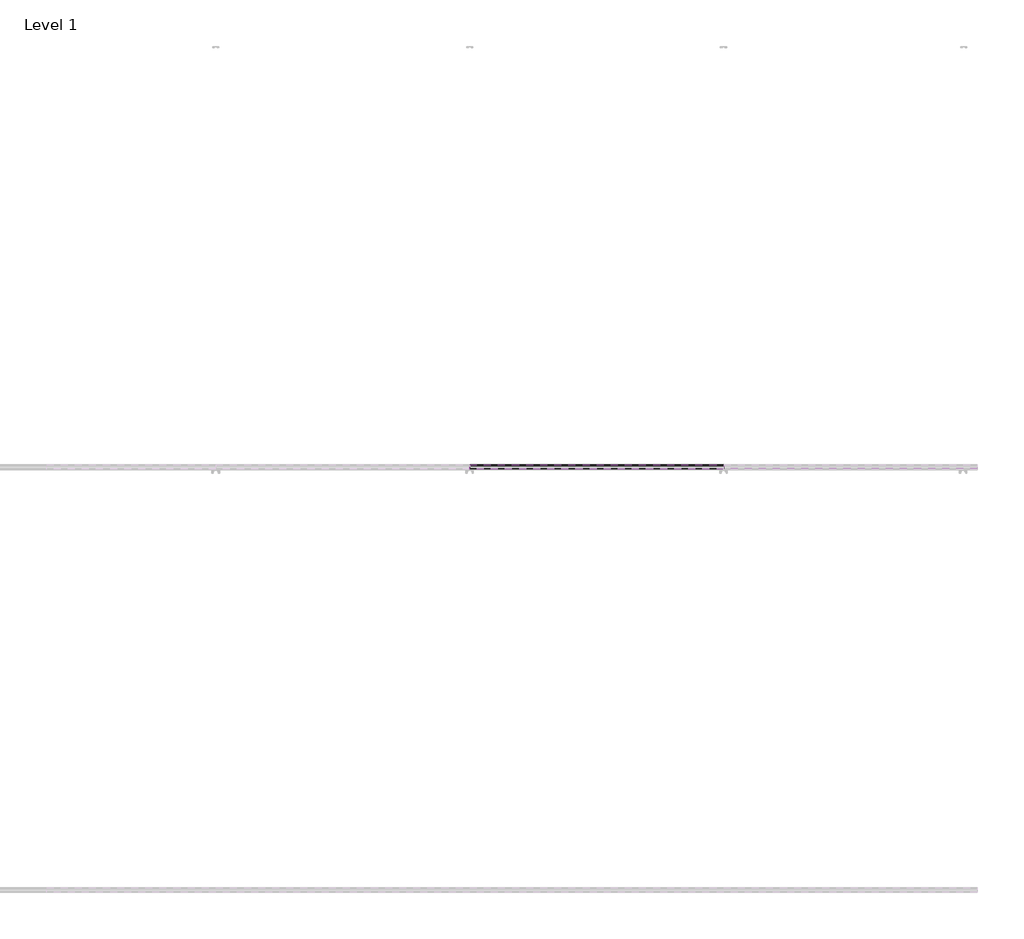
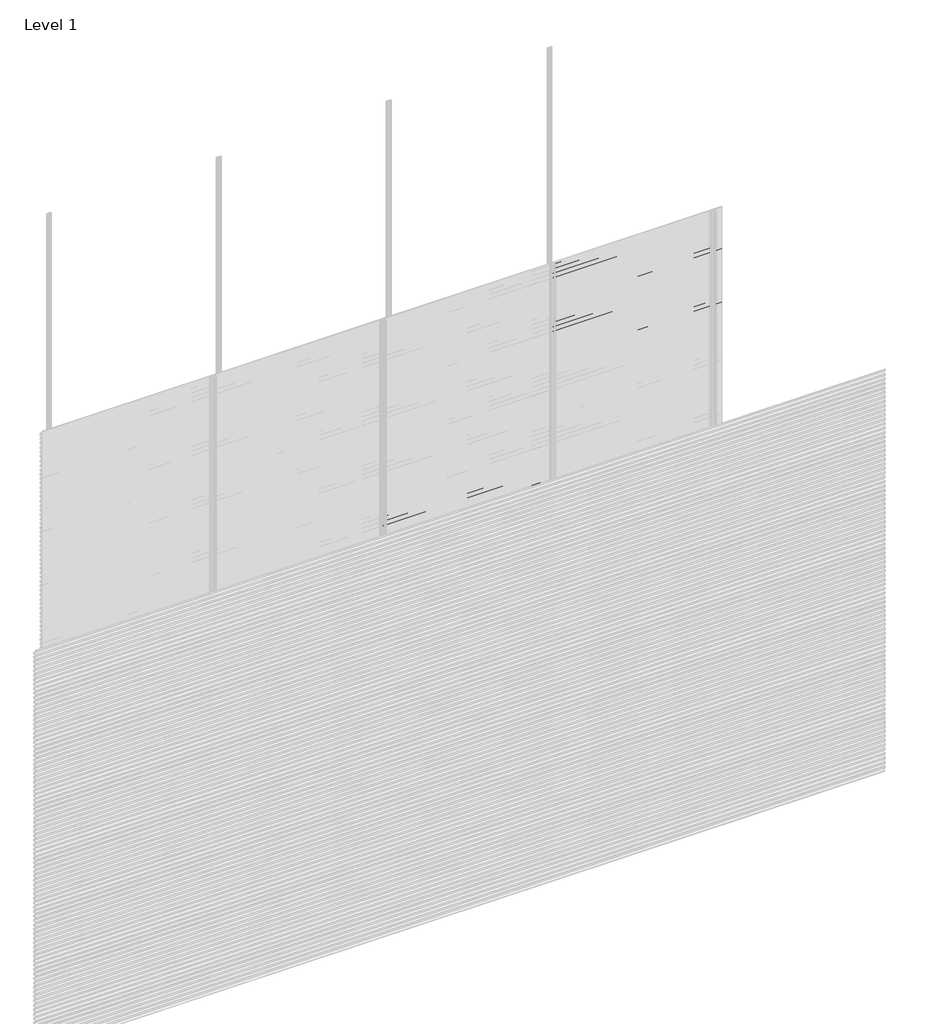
# One storey, part 69 of 77: 72 proxies.
"""IFC4 building model written with IfcOpenShell, lengths in millimetres."""

from ifc_helpers import new_model, si_unit, frame, origin, place, context, project, spatial, polyline, outline, extrude, element, save

model = new_model("IFC4")

# Units and contexts
model_context = context("Model", 3, world=origin())
ifc_project = project(units=[si_unit("LENGTHUNIT", "METRE", prefix="MILLI")], contexts=[model_context])

# Site, building, storey
site = spatial("IfcSite", under=ifc_project)
building = spatial("IfcBuilding", under=site)
storey = spatial("IfcBuildingStorey", under=building, Name="Level 1", Elevation=0.0)

# Proxies
placement = place(None, origin())
element("IfcBuildingElementProxy", 1, Name="Wall Sweeps", at=placement, inside=storey, context=model_context, shape_type="SweptSolid", body=[
    extrude(outline(polyline([(-5978.6, 1607.2359887), (-5998.0, 1618.4366691), (-5998.0, 1631.7), (-5997.0, 1631.7), (-5997.0, 1619.0191057), (-5977.6, 1607.8185105), (-5977.6, 1594.2185105), (-5978.6, 1595.7953129), (-5978.6, 1601.6032062), (-5995.9773817, 1593.5), (-5996.4, 1594.4063078), (-5978.6, 1602.7065841), (-5978.6, 1607.2359887)])), frame((3600.0, 0.0, 0.0), z_axis=(1.0, 0.0, 0.0), x_axis=(0.0, 1.0, 0.0)), (0.0, 0.0, 1.0), 1200.0),
])
element("IfcBuildingElementProxy", 2, Name="Wall Sweeps", at=placement, inside=storey, context=model_context, shape_type="SweptSolid", body=[
    extrude(outline(polyline([(-5978.6, 1573.9359887), (-5998.0, 1585.1366691), (-5998.0, 1598.4), (-5997.0, 1598.4), (-5997.0, 1585.7191057), (-5977.6, 1574.5185105), (-5977.6, 1560.9185105), (-5978.6, 1562.4953129), (-5978.6, 1568.3032062), (-5995.9773817, 1560.2), (-5996.4, 1561.1063078), (-5978.6, 1569.4065841), (-5978.6, 1573.9359887)])), frame((3600.0, 0.0, 0.0), z_axis=(1.0, 0.0, 0.0), x_axis=(0.0, 1.0, 0.0)), (0.0, 0.0, 1.0), 1200.0),
])
element("IfcBuildingElementProxy", 3, Name="Wall Sweeps", at=placement, inside=storey, context=model_context, shape_type="SweptSolid", body=[
    extrude(outline(polyline([(-5978.6, 1540.6359887), (-5998.0, 1551.8366691), (-5998.0, 1565.1), (-5997.0, 1565.1), (-5997.0, 1552.4191057), (-5977.6, 1541.2185105), (-5977.6, 1527.6185105), (-5978.6, 1529.1953129), (-5978.6, 1535.0032062), (-5995.9773817, 1526.9), (-5996.4, 1527.8063078), (-5978.6, 1536.1065841), (-5978.6, 1540.6359887)])), frame((3600.0, 0.0, 0.0), z_axis=(1.0, 0.0, 0.0), x_axis=(0.0, 1.0, 0.0)), (0.0, 0.0, 1.0), 1200.0),
])
element("IfcBuildingElementProxy", 4, Name="Wall Sweeps", at=placement, inside=storey, context=model_context, shape_type="SweptSolid", body=[
    extrude(outline(polyline([(-5978.6, 1507.3359887), (-5998.0, 1518.5366691), (-5998.0, 1531.8), (-5997.0, 1531.8), (-5997.0, 1519.1191057), (-5977.6, 1507.9185105), (-5977.6, 1494.3185105), (-5978.6, 1495.8953129), (-5978.6, 1501.7032062), (-5995.9773817, 1493.6), (-5996.4, 1494.5063078), (-5978.6, 1502.8065841), (-5978.6, 1507.3359887)])), frame((3600.0, 0.0, 0.0), z_axis=(1.0, 0.0, 0.0), x_axis=(0.0, 1.0, 0.0)), (0.0, 0.0, 1.0), 1200.0),
])
element("IfcBuildingElementProxy", 5, Name="Wall Sweeps", at=placement, inside=storey, context=model_context, shape_type="SweptSolid", body=[
    extrude(outline(polyline([(-5978.6, 1474.0359887), (-5998.0, 1485.2366691), (-5998.0, 1498.5), (-5997.0, 1498.5), (-5997.0, 1485.8191057), (-5977.6, 1474.6185105), (-5977.6, 1461.0185105), (-5978.6, 1462.5953129), (-5978.6, 1468.4032062), (-5995.9773817, 1460.3), (-5996.4, 1461.2063078), (-5978.6, 1469.5065841), (-5978.6, 1474.0359887)])), frame((3600.0, 0.0, 0.0), z_axis=(1.0, 0.0, 0.0), x_axis=(0.0, 1.0, 0.0)), (0.0, 0.0, 1.0), 1200.0),
])
element("IfcBuildingElementProxy", 6, Name="Wall Sweeps", at=placement, inside=storey, context=model_context, shape_type="SweptSolid", body=[
    extrude(outline(polyline([(-5978.6, 1440.7359887), (-5998.0, 1451.9366691), (-5998.0, 1465.2), (-5997.0, 1465.2), (-5997.0, 1452.5191057), (-5977.6, 1441.3185105), (-5977.6, 1427.7185105), (-5978.6, 1429.2953129), (-5978.6, 1435.1032062), (-5995.9773817, 1427.0), (-5996.4, 1427.9063078), (-5978.6, 1436.2065841), (-5978.6, 1440.7359887)])), frame((3600.0, 0.0, 0.0), z_axis=(1.0, 0.0, 0.0), x_axis=(0.0, 1.0, 0.0)), (0.0, 0.0, 1.0), 1200.0),
])
element("IfcBuildingElementProxy", 7, Name="Wall Sweeps", at=placement, inside=storey, context=model_context, shape_type="SweptSolid", body=[
    extrude(outline(polyline([(-5978.6, 1407.4359887), (-5998.0, 1418.6366691), (-5998.0, 1431.9), (-5997.0, 1431.9), (-5997.0, 1419.2191057), (-5977.6, 1408.0185105), (-5977.6, 1394.4185105), (-5978.6, 1395.9953129), (-5978.6, 1401.8032062), (-5995.9773817, 1393.7), (-5996.4, 1394.6063078), (-5978.6, 1402.9065841), (-5978.6, 1407.4359887)])), frame((3600.0, 0.0, 0.0), z_axis=(1.0, 0.0, 0.0), x_axis=(0.0, 1.0, 0.0)), (0.0, 0.0, 1.0), 1200.0),
])
element("IfcBuildingElementProxy", 8, Name="Wall Sweeps", at=placement, inside=storey, context=model_context, shape_type="SweptSolid", body=[
    extrude(outline(polyline([(-5978.6, 1374.1359887), (-5998.0, 1385.3366691), (-5998.0, 1398.6), (-5997.0, 1398.6), (-5997.0, 1385.9191057), (-5977.6, 1374.7185105), (-5977.6, 1361.1185105), (-5978.6, 1362.6953129), (-5978.6, 1368.5032062), (-5995.9773817, 1360.4), (-5996.4, 1361.3063078), (-5978.6, 1369.6065841), (-5978.6, 1374.1359887)])), frame((3600.0, 0.0, 0.0), z_axis=(1.0, 0.0, 0.0), x_axis=(0.0, 1.0, 0.0)), (0.0, 0.0, 1.0), 1200.0),
])
element("IfcBuildingElementProxy", 9, Name="Wall Sweeps", at=placement, inside=storey, context=model_context, shape_type="SweptSolid", body=[
    extrude(outline(polyline([(-5978.6, 1340.8359887), (-5998.0, 1352.0366691), (-5998.0, 1365.3), (-5997.0, 1365.3), (-5997.0, 1352.6191057), (-5977.6, 1341.4185105), (-5977.6, 1327.8185105), (-5978.6, 1329.3953129), (-5978.6, 1335.2032062), (-5995.9773817, 1327.1), (-5996.4, 1328.0063078), (-5978.6, 1336.3065841), (-5978.6, 1340.8359887)])), frame((3600.0, 0.0, 0.0), z_axis=(1.0, 0.0, 0.0), x_axis=(0.0, 1.0, 0.0)), (0.0, 0.0, 1.0), 1200.0),
])
element("IfcBuildingElementProxy", 10, Name="Wall Sweeps", at=placement, inside=storey, context=model_context, shape_type="SweptSolid", body=[
    extrude(outline(polyline([(-5978.6, 1307.5359887), (-5998.0, 1318.7366691), (-5998.0, 1332.0), (-5997.0, 1332.0), (-5997.0, 1319.3191057), (-5977.6, 1308.1185105), (-5977.6, 1294.5185105), (-5978.6, 1296.0953129), (-5978.6, 1301.9032062), (-5995.9773817, 1293.8), (-5996.4, 1294.7063078), (-5978.6, 1303.0065841), (-5978.6, 1307.5359887)])), frame((3600.0, 0.0, 0.0), z_axis=(1.0, 0.0, 0.0), x_axis=(0.0, 1.0, 0.0)), (0.0, 0.0, 1.0), 1200.0),
])
element("IfcBuildingElementProxy", 11, Name="Wall Sweeps", at=placement, inside=storey, context=model_context, shape_type="SweptSolid", body=[
    extrude(outline(polyline([(-5978.6, 1274.2359887), (-5998.0, 1285.4366691), (-5998.0, 1298.7), (-5997.0, 1298.7), (-5997.0, 1286.0191057), (-5977.6, 1274.8185105), (-5977.6, 1261.2185105), (-5978.6, 1262.7953129), (-5978.6, 1268.6032062), (-5995.9773817, 1260.5), (-5996.4, 1261.4063078), (-5978.6, 1269.7065841), (-5978.6, 1274.2359887)])), frame((3600.0, 0.0, 0.0), z_axis=(1.0, 0.0, 0.0), x_axis=(0.0, 1.0, 0.0)), (0.0, 0.0, 1.0), 1200.0),
])
element("IfcBuildingElementProxy", 12, Name="Wall Sweeps", at=placement, inside=storey, context=model_context, shape_type="SweptSolid", body=[
    extrude(outline(polyline([(-5978.6, 1240.9359887), (-5998.0, 1252.1366691), (-5998.0, 1265.4), (-5997.0, 1265.4), (-5997.0, 1252.7191057), (-5977.6, 1241.5185105), (-5977.6, 1227.9185105), (-5978.6, 1229.4953129), (-5978.6, 1235.3032062), (-5995.9773817, 1227.2), (-5996.4, 1228.1063078), (-5978.6, 1236.4065841), (-5978.6, 1240.9359887)])), frame((3600.0, 0.0, 0.0), z_axis=(1.0, 0.0, 0.0), x_axis=(0.0, 1.0, 0.0)), (0.0, 0.0, 1.0), 1200.0),
])
element("IfcBuildingElementProxy", 13, Name="Wall Sweeps", at=placement, inside=storey, context=model_context, shape_type="SweptSolid", body=[
    extrude(outline(polyline([(-5978.6, 1207.6359887), (-5998.0, 1218.8366691), (-5998.0, 1232.1), (-5997.0, 1232.1), (-5997.0, 1219.4191057), (-5977.6, 1208.2185105), (-5977.6, 1194.6185105), (-5978.6, 1196.1953129), (-5978.6, 1202.0032062), (-5995.9773817, 1193.9), (-5996.4, 1194.8063078), (-5978.6, 1203.1065841), (-5978.6, 1207.6359887)])), frame((3600.0, 0.0, 0.0), z_axis=(1.0, 0.0, 0.0), x_axis=(0.0, 1.0, 0.0)), (0.0, 0.0, 1.0), 1200.0),
])
element("IfcBuildingElementProxy", 14, Name="Wall Sweeps", at=placement, inside=storey, context=model_context, shape_type="SweptSolid", body=[
    extrude(outline(polyline([(-5978.6, 1174.3359887), (-5998.0, 1185.5366691), (-5998.0, 1198.8), (-5997.0, 1198.8), (-5997.0, 1186.1191057), (-5977.6, 1174.9185105), (-5977.6, 1161.3185105), (-5978.6, 1162.8953129), (-5978.6, 1168.7032062), (-5995.9773817, 1160.6), (-5996.4, 1161.5063078), (-5978.6, 1169.8065841), (-5978.6, 1174.3359887)])), frame((3600.0, 0.0, 0.0), z_axis=(1.0, 0.0, 0.0), x_axis=(0.0, 1.0, 0.0)), (0.0, 0.0, 1.0), 1200.0),
])
element("IfcBuildingElementProxy", 15, Name="Wall Sweeps", at=placement, inside=storey, context=model_context, shape_type="SweptSolid", body=[
    extrude(outline(polyline([(-5978.6, 1141.0359887), (-5998.0, 1152.2366691), (-5998.0, 1165.5), (-5997.0, 1165.5), (-5997.0, 1152.8191057), (-5977.6, 1141.6185105), (-5977.6, 1128.0185105), (-5978.6, 1129.5953129), (-5978.6, 1135.4032062), (-5995.9773817, 1127.3), (-5996.4, 1128.2063078), (-5978.6, 1136.5065841), (-5978.6, 1141.0359887)])), frame((3600.0, 0.0, 0.0), z_axis=(1.0, 0.0, 0.0), x_axis=(0.0, 1.0, 0.0)), (0.0, 0.0, 1.0), 1200.0),
])
element("IfcBuildingElementProxy", 16, Name="Wall Sweeps", at=placement, inside=storey, context=model_context, shape_type="SweptSolid", body=[
    extrude(outline(polyline([(-5978.6, 1107.7359887), (-5998.0, 1118.9366691), (-5998.0, 1132.2), (-5997.0, 1132.2), (-5997.0, 1119.5191057), (-5977.6, 1108.3185105), (-5977.6, 1094.7185105), (-5978.6, 1096.2953129), (-5978.6, 1102.1032062), (-5995.9773817, 1094.0), (-5996.4, 1094.9063078), (-5978.6, 1103.2065841), (-5978.6, 1107.7359887)])), frame((3600.0, 0.0, 0.0), z_axis=(1.0, 0.0, 0.0), x_axis=(0.0, 1.0, 0.0)), (0.0, 0.0, 1.0), 1200.0),
])
element("IfcBuildingElementProxy", 17, Name="Wall Sweeps", at=placement, inside=storey, context=model_context, shape_type="SweptSolid", body=[
    extrude(outline(polyline([(-5978.6, 1074.4359887), (-5998.0, 1085.6366691), (-5998.0, 1098.9), (-5997.0, 1098.9), (-5997.0, 1086.2191057), (-5977.6, 1075.0185105), (-5977.6, 1061.4185105), (-5978.6, 1062.9953129), (-5978.6, 1068.8032062), (-5995.9773817, 1060.7), (-5996.4, 1061.6063078), (-5978.6, 1069.9065841), (-5978.6, 1074.4359887)])), frame((3600.0, 0.0, 0.0), z_axis=(1.0, 0.0, 0.0), x_axis=(0.0, 1.0, 0.0)), (0.0, 0.0, 1.0), 1200.0),
])
element("IfcBuildingElementProxy", 18, Name="Wall Sweeps", at=placement, inside=storey, context=model_context, shape_type="SweptSolid", body=[
    extrude(outline(polyline([(-5978.6, 1041.1359887), (-5998.0, 1052.3366691), (-5998.0, 1065.6), (-5997.0, 1065.6), (-5997.0, 1052.9191057), (-5977.6, 1041.7185105), (-5977.6, 1028.1185105), (-5978.6, 1029.6953129), (-5978.6, 1035.5032062), (-5995.9773817, 1027.4), (-5996.4, 1028.3063078), (-5978.6, 1036.6065841), (-5978.6, 1041.1359887)])), frame((3600.0, 0.0, 0.0), z_axis=(1.0, 0.0, 0.0), x_axis=(0.0, 1.0, 0.0)), (0.0, 0.0, 1.0), 1200.0),
])
element("IfcBuildingElementProxy", 19, Name="Wall Sweeps", at=placement, inside=storey, context=model_context, shape_type="SweptSolid", body=[
    extrude(outline(polyline([(-5978.6, 1007.8359887), (-5998.0, 1019.0366691), (-5998.0, 1032.3), (-5997.0, 1032.3), (-5997.0, 1019.6191057), (-5977.6, 1008.4185105), (-5977.6, 994.8185105), (-5978.6, 996.3953129), (-5978.6, 1002.2032062), (-5995.9773817, 994.1), (-5996.4, 995.0063078), (-5978.6, 1003.3065841), (-5978.6, 1007.8359887)])), frame((3600.0, 0.0, 0.0), z_axis=(1.0, 0.0, 0.0), x_axis=(0.0, 1.0, 0.0)), (0.0, 0.0, 1.0), 1200.0),
])
element("IfcBuildingElementProxy", 20, Name="Wall Sweeps", at=placement, inside=storey, context=model_context, shape_type="SweptSolid", body=[
    extrude(outline(polyline([(-5978.6, 974.5359887), (-5998.0, 985.7366691), (-5998.0, 999.0), (-5997.0, 999.0), (-5997.0, 986.3191057), (-5977.6, 975.1185105), (-5977.6, 961.5185105), (-5978.6, 963.0953129), (-5978.6, 968.9032062), (-5995.9773817, 960.8), (-5996.4, 961.7063078), (-5978.6, 970.0065841), (-5978.6, 974.5359887)])), frame((3600.0, 0.0, 0.0), z_axis=(1.0, 0.0, 0.0), x_axis=(0.0, 1.0, 0.0)), (0.0, 0.0, 1.0), 1200.0),
])
element("IfcBuildingElementProxy", 21, Name="Wall Sweeps", at=placement, inside=storey, context=model_context, shape_type="SweptSolid", body=[
    extrude(outline(polyline([(-5978.6, 941.2359887), (-5998.0, 952.4366691), (-5998.0, 965.7), (-5997.0, 965.7), (-5997.0, 953.0191057), (-5977.6, 941.8185105), (-5977.6, 928.2185105), (-5978.6, 929.7953129), (-5978.6, 935.6032062), (-5995.9773817, 927.5), (-5996.4, 928.4063078), (-5978.6, 936.7065841), (-5978.6, 941.2359887)])), frame((3600.0, 0.0, 0.0), z_axis=(1.0, 0.0, 0.0), x_axis=(0.0, 1.0, 0.0)), (0.0, 0.0, 1.0), 1200.0),
])
element("IfcBuildingElementProxy", 22, Name="Wall Sweeps", at=placement, inside=storey, context=model_context, shape_type="SweptSolid", body=[
    extrude(outline(polyline([(-5978.6, 907.9359887), (-5998.0, 919.1366691), (-5998.0, 932.4), (-5997.0, 932.4), (-5997.0, 919.7191057), (-5977.6, 908.5185105), (-5977.6, 894.9185105), (-5978.6, 896.4953129), (-5978.6, 902.3032062), (-5995.9773817, 894.2), (-5996.4, 895.1063078), (-5978.6, 903.4065841), (-5978.6, 907.9359887)])), frame((3600.0, 0.0, 0.0), z_axis=(1.0, 0.0, 0.0), x_axis=(0.0, 1.0, 0.0)), (0.0, 0.0, 1.0), 1200.0),
])
element("IfcBuildingElementProxy", 23, Name="Wall Sweeps", at=placement, inside=storey, context=model_context, shape_type="SweptSolid", body=[
    extrude(outline(polyline([(-5978.6, 874.6359887), (-5998.0, 885.8366691), (-5998.0, 899.1), (-5997.0, 899.1), (-5997.0, 886.4191057), (-5977.6, 875.2185105), (-5977.6, 861.6185105), (-5978.6, 863.1953129), (-5978.6, 869.0032062), (-5995.9773817, 860.9), (-5996.4, 861.8063078), (-5978.6, 870.1065841), (-5978.6, 874.6359887)])), frame((3600.0, 0.0, 0.0), z_axis=(1.0, 0.0, 0.0), x_axis=(0.0, 1.0, 0.0)), (0.0, 0.0, 1.0), 1200.0),
])
element("IfcBuildingElementProxy", 24, Name="Wall Sweeps", at=placement, inside=storey, context=model_context, shape_type="SweptSolid", body=[
    extrude(outline(polyline([(-5978.6, 841.3359887), (-5998.0, 852.5366691), (-5998.0, 865.8), (-5997.0, 865.8), (-5997.0, 853.1191057), (-5977.6, 841.9185105), (-5977.6, 828.3185105), (-5978.6, 829.8953129), (-5978.6, 835.7032062), (-5995.9773817, 827.6), (-5996.4, 828.5063078), (-5978.6, 836.8065841), (-5978.6, 841.3359887)])), frame((3600.0, 0.0, 0.0), z_axis=(1.0, 0.0, 0.0), x_axis=(0.0, 1.0, 0.0)), (0.0, 0.0, 1.0), 1200.0),
])
element("IfcBuildingElementProxy", 25, Name="Wall Sweeps", at=placement, inside=storey, context=model_context, shape_type="SweptSolid", body=[
    extrude(outline(polyline([(-5978.6, 808.0359887), (-5998.0, 819.2366691), (-5998.0, 832.5), (-5997.0, 832.5), (-5997.0, 819.8191057), (-5977.6, 808.6185105), (-5977.6, 795.0185105), (-5978.6, 796.5953129), (-5978.6, 802.4032062), (-5995.9773817, 794.3), (-5996.4, 795.2063078), (-5978.6, 803.5065841), (-5978.6, 808.0359887)])), frame((3600.0, 0.0, 0.0), z_axis=(1.0, 0.0, 0.0), x_axis=(0.0, 1.0, 0.0)), (0.0, 0.0, 1.0), 1200.0),
])
element("IfcBuildingElementProxy", 26, Name="Wall Sweeps", at=placement, inside=storey, context=model_context, shape_type="SweptSolid", body=[
    extrude(outline(polyline([(-5978.6, 774.7359887), (-5998.0, 785.9366691), (-5998.0, 799.2), (-5997.0, 799.2), (-5997.0, 786.5191057), (-5977.6, 775.3185105), (-5977.6, 761.7185105), (-5978.6, 763.2953129), (-5978.6, 769.1032062), (-5995.9773817, 761.0), (-5996.4, 761.9063078), (-5978.6, 770.2065841), (-5978.6, 774.7359887)])), frame((3600.0, 0.0, 0.0), z_axis=(1.0, 0.0, 0.0), x_axis=(0.0, 1.0, 0.0)), (0.0, 0.0, 1.0), 1200.0),
])
element("IfcBuildingElementProxy", 27, Name="Wall Sweeps", at=placement, inside=storey, context=model_context, shape_type="SweptSolid", body=[
    extrude(outline(polyline([(-5978.6, 741.4359887), (-5998.0, 752.6366691), (-5998.0, 765.9), (-5997.0, 765.9), (-5997.0, 753.2191057), (-5977.6, 742.0185105), (-5977.6, 728.4185105), (-5978.6, 729.9953129), (-5978.6, 735.8032062), (-5995.9773817, 727.7), (-5996.4, 728.6063078), (-5978.6, 736.9065841), (-5978.6, 741.4359887)])), frame((3600.0, 0.0, 0.0), z_axis=(1.0, 0.0, 0.0), x_axis=(0.0, 1.0, 0.0)), (0.0, 0.0, 1.0), 1200.0),
])
element("IfcBuildingElementProxy", 28, Name="Wall Sweeps", at=placement, inside=storey, context=model_context, shape_type="SweptSolid", body=[
    extrude(outline(polyline([(-5978.6, 708.1359887), (-5998.0, 719.3366691), (-5998.0, 732.6), (-5997.0, 732.6), (-5997.0, 719.9191057), (-5977.6, 708.7185105), (-5977.6, 695.1185105), (-5978.6, 696.6953129), (-5978.6, 702.5032062), (-5995.9773817, 694.4), (-5996.4, 695.3063078), (-5978.6, 703.6065841), (-5978.6, 708.1359887)])), frame((3600.0, 0.0, 0.0), z_axis=(1.0, 0.0, 0.0), x_axis=(0.0, 1.0, 0.0)), (0.0, 0.0, 1.0), 1200.0),
])
element("IfcBuildingElementProxy", 29, Name="Wall Sweeps", at=placement, inside=storey, context=model_context, shape_type="SweptSolid", body=[
    extrude(outline(polyline([(-5978.6, 674.8359887), (-5998.0, 686.0366691), (-5998.0, 699.3), (-5997.0, 699.3), (-5997.0, 686.6191057), (-5977.6, 675.4185105), (-5977.6, 661.8185105), (-5978.6, 663.3953129), (-5978.6, 669.2032062), (-5995.9773817, 661.1), (-5996.4, 662.0063078), (-5978.6, 670.3065841), (-5978.6, 674.8359887)])), frame((3600.0, 0.0, 0.0), z_axis=(1.0, 0.0, 0.0), x_axis=(0.0, 1.0, 0.0)), (0.0, 0.0, 1.0), 1200.0),
])
element("IfcBuildingElementProxy", 30, Name="Wall Sweeps", at=placement, inside=storey, context=model_context, shape_type="SweptSolid", body=[
    extrude(outline(polyline([(-5978.6, 641.5359887), (-5998.0, 652.7366691), (-5998.0, 666.0), (-5997.0, 666.0), (-5997.0, 653.3191057), (-5977.6, 642.1185105), (-5977.6, 628.5185105), (-5978.6, 630.0953129), (-5978.6, 635.9032062), (-5995.9773817, 627.8), (-5996.4, 628.7063078), (-5978.6, 637.0065841), (-5978.6, 641.5359887)])), frame((3600.0, 0.0, 0.0), z_axis=(1.0, 0.0, 0.0), x_axis=(0.0, 1.0, 0.0)), (0.0, 0.0, 1.0), 1200.0),
])
element("IfcBuildingElementProxy", 31, Name="Wall Sweeps", at=placement, inside=storey, context=model_context, shape_type="SweptSolid", body=[
    extrude(outline(polyline([(-5978.6, 608.2359887), (-5998.0, 619.4366691), (-5998.0, 632.7), (-5997.0, 632.7), (-5997.0, 620.0191057), (-5977.6, 608.8185105), (-5977.6, 595.2185105), (-5978.6, 596.7953129), (-5978.6, 602.6032062), (-5995.9773817, 594.5), (-5996.4, 595.4063078), (-5978.6, 603.7065841), (-5978.6, 608.2359887)])), frame((3600.0, 0.0, 0.0), z_axis=(1.0, 0.0, 0.0), x_axis=(0.0, 1.0, 0.0)), (0.0, 0.0, 1.0), 1200.0),
])
element("IfcBuildingElementProxy", 32, Name="Wall Sweeps", at=placement, inside=storey, context=model_context, shape_type="SweptSolid", body=[
    extrude(outline(polyline([(-5978.6, 574.9359887), (-5998.0, 586.1366691), (-5998.0, 599.4), (-5997.0, 599.4), (-5997.0, 586.7191057), (-5977.6, 575.5185105), (-5977.6, 561.9185105), (-5978.6, 563.4953129), (-5978.6, 569.3032062), (-5995.9773817, 561.2), (-5996.4, 562.1063078), (-5978.6, 570.4065841), (-5978.6, 574.9359887)])), frame((3600.0, 0.0, 0.0), z_axis=(1.0, 0.0, 0.0), x_axis=(0.0, 1.0, 0.0)), (0.0, 0.0, 1.0), 1200.0),
])
element("IfcBuildingElementProxy", 33, Name="Wall Sweeps", at=placement, inside=storey, context=model_context, shape_type="SweptSolid", body=[
    extrude(outline(polyline([(-5978.6, 541.6359887), (-5998.0, 552.8366691), (-5998.0, 566.1), (-5997.0, 566.1), (-5997.0, 553.4191057), (-5977.6, 542.2185105), (-5977.6, 528.6185105), (-5978.6, 530.1953129), (-5978.6, 536.0032062), (-5995.9773817, 527.9), (-5996.4, 528.8063078), (-5978.6, 537.1065841), (-5978.6, 541.6359887)])), frame((3600.0, 0.0, 0.0), z_axis=(1.0, 0.0, 0.0), x_axis=(0.0, 1.0, 0.0)), (0.0, 0.0, 1.0), 1200.0),
])
element("IfcBuildingElementProxy", 34, Name="Wall Sweeps", at=placement, inside=storey, context=model_context, shape_type="SweptSolid", body=[
    extrude(outline(polyline([(-5978.6, 508.3359887), (-5998.0, 519.5366691), (-5998.0, 532.8), (-5997.0, 532.8), (-5997.0, 520.1191057), (-5977.6, 508.9185105), (-5977.6, 495.3185105), (-5978.6, 496.8953129), (-5978.6, 502.7032062), (-5995.9773817, 494.6), (-5996.4, 495.5063078), (-5978.6, 503.8065841), (-5978.6, 508.3359887)])), frame((3600.0, 0.0, 0.0), z_axis=(1.0, 0.0, 0.0), x_axis=(0.0, 1.0, 0.0)), (0.0, 0.0, 1.0), 1200.0),
])
element("IfcBuildingElementProxy", 35, Name="Wall Sweeps", at=placement, inside=storey, context=model_context, shape_type="SweptSolid", body=[
    extrude(outline(polyline([(-5978.6, 475.0359887), (-5998.0, 486.2366691), (-5998.0, 499.5), (-5997.0, 499.5), (-5997.0, 486.8191057), (-5977.6, 475.6185105), (-5977.6, 462.0185105), (-5978.6, 463.5953129), (-5978.6, 469.4032062), (-5995.9773817, 461.3), (-5996.4, 462.2063078), (-5978.6, 470.5065841), (-5978.6, 475.0359887)])), frame((3600.0, 0.0, 0.0), z_axis=(1.0, 0.0, 0.0), x_axis=(0.0, 1.0, 0.0)), (0.0, 0.0, 1.0), 1200.0),
])
element("IfcBuildingElementProxy", 36, Name="Wall Sweeps", at=placement, inside=storey, context=model_context, shape_type="SweptSolid", body=[
    extrude(outline(polyline([(-5978.6, 441.7359887), (-5998.0, 452.9366691), (-5998.0, 466.2), (-5997.0, 466.2), (-5997.0, 453.5191057), (-5977.6, 442.3185105), (-5977.6, 428.7185105), (-5978.6, 430.2953129), (-5978.6, 436.1032062), (-5995.9773817, 428.0), (-5996.4, 428.9063078), (-5978.6, 437.2065841), (-5978.6, 441.7359887)])), frame((3600.0, 0.0, 0.0), z_axis=(1.0, 0.0, 0.0), x_axis=(0.0, 1.0, 0.0)), (0.0, 0.0, 1.0), 1200.0),
])
element("IfcBuildingElementProxy", 37, Name="Wall Sweeps", at=placement, inside=storey, context=model_context, shape_type="SweptSolid", body=[
    extrude(outline(polyline([(-5978.6, 408.4359887), (-5998.0, 419.6366691), (-5998.0, 432.9), (-5997.0, 432.9), (-5997.0, 420.2191057), (-5977.6, 409.0185105), (-5977.6, 395.4185105), (-5978.6, 396.9953129), (-5978.6, 402.8032062), (-5995.9773817, 394.7), (-5996.4, 395.6063078), (-5978.6, 403.9065841), (-5978.6, 408.4359887)])), frame((3600.0, 0.0, 0.0), z_axis=(1.0, 0.0, 0.0), x_axis=(0.0, 1.0, 0.0)), (0.0, 0.0, 1.0), 1200.0),
])
element("IfcBuildingElementProxy", 38, Name="Wall Sweeps", at=placement, inside=storey, context=model_context, shape_type="SweptSolid", body=[
    extrude(outline(polyline([(-5978.6, 375.1359887), (-5998.0, 386.3366691), (-5998.0, 399.6), (-5997.0, 399.6), (-5997.0, 386.9191057), (-5977.6, 375.7185105), (-5977.6, 362.1185105), (-5978.6, 363.6953129), (-5978.6, 369.5032062), (-5995.9773817, 361.4), (-5996.4, 362.3063078), (-5978.6, 370.6065841), (-5978.6, 375.1359887)])), frame((3600.0, 0.0, 0.0), z_axis=(1.0, 0.0, 0.0), x_axis=(0.0, 1.0, 0.0)), (0.0, 0.0, 1.0), 1200.0),
])
element("IfcBuildingElementProxy", 39, Name="Wall Sweeps", at=placement, inside=storey, context=model_context, shape_type="SweptSolid", body=[
    extrude(outline(polyline([(-5978.6, 341.8359887), (-5998.0, 353.0366691), (-5998.0, 366.3), (-5997.0, 366.3), (-5997.0, 353.6191057), (-5977.6, 342.4185105), (-5977.6, 328.8185105), (-5978.6, 330.3953129), (-5978.6, 336.2032062), (-5995.9773817, 328.1), (-5996.4, 329.0063078), (-5978.6, 337.3065841), (-5978.6, 341.8359887)])), frame((3600.0, 0.0, 0.0), z_axis=(1.0, 0.0, 0.0), x_axis=(0.0, 1.0, 0.0)), (0.0, 0.0, 1.0), 1200.0),
])
element("IfcBuildingElementProxy", 40, Name="Wall Sweeps", at=placement, inside=storey, context=model_context, shape_type="SweptSolid", body=[
    extrude(outline(polyline([(-5978.6, 308.5359887), (-5998.0, 319.7366691), (-5998.0, 333.0), (-5997.0, 333.0), (-5997.0, 320.3191057), (-5977.6, 309.1185105), (-5977.6, 295.5185105), (-5978.6, 297.0953129), (-5978.6, 302.9032062), (-5995.9773817, 294.8), (-5996.4, 295.7063078), (-5978.6, 304.0065841), (-5978.6, 308.5359887)])), frame((3600.0, 0.0, 0.0), z_axis=(1.0, 0.0, 0.0), x_axis=(0.0, 1.0, 0.0)), (0.0, 0.0, 1.0), 1200.0),
])
element("IfcBuildingElementProxy", 41, Name="Wall Sweeps", at=placement, inside=storey, context=model_context, shape_type="SweptSolid", body=[
    extrude(outline(polyline([(-5978.6, 275.2359887), (-5998.0, 286.4366691), (-5998.0, 299.7), (-5997.0, 299.7), (-5997.0, 287.0191057), (-5977.6, 275.8185105), (-5977.6, 262.2185105), (-5978.6, 263.7953129), (-5978.6, 269.6032062), (-5995.9773817, 261.5), (-5996.4, 262.4063078), (-5978.6, 270.7065841), (-5978.6, 275.2359887)])), frame((3600.0, 0.0, 0.0), z_axis=(1.0, 0.0, 0.0), x_axis=(0.0, 1.0, 0.0)), (0.0, 0.0, 1.0), 1200.0),
])
element("IfcBuildingElementProxy", 42, Name="Wall Sweeps", at=placement, inside=storey, context=model_context, shape_type="SweptSolid", body=[
    extrude(outline(polyline([(-5978.6, 241.9359887), (-5998.0, 253.1366691), (-5998.0, 266.4), (-5997.0, 266.4), (-5997.0, 253.7191057), (-5977.6, 242.5185105), (-5977.6, 228.9185105), (-5978.6, 230.4953129), (-5978.6, 236.3032062), (-5995.9773817, 228.2), (-5996.4, 229.1063078), (-5978.6, 237.4065841), (-5978.6, 241.9359887)])), frame((3600.0, 0.0, 0.0), z_axis=(1.0, 0.0, 0.0), x_axis=(0.0, 1.0, 0.0)), (0.0, 0.0, 1.0), 1200.0),
])
element("IfcBuildingElementProxy", 43, Name="Wall Sweeps", at=placement, inside=storey, context=model_context, shape_type="SweptSolid", body=[
    extrude(outline(polyline([(-5978.6, 208.6359887), (-5998.0, 219.8366691), (-5998.0, 233.1), (-5997.0, 233.1), (-5997.0, 220.4191057), (-5977.6, 209.2185105), (-5977.6, 195.6185105), (-5978.6, 197.1953129), (-5978.6, 203.0032062), (-5995.9773817, 194.9), (-5996.4, 195.8063078), (-5978.6, 204.1065841), (-5978.6, 208.6359887)])), frame((3600.0, 0.0, 0.0), z_axis=(1.0, 0.0, 0.0), x_axis=(0.0, 1.0, 0.0)), (0.0, 0.0, 1.0), 1200.0),
])
element("IfcBuildingElementProxy", 44, Name="Wall Sweeps", at=placement, inside=storey, context=model_context, shape_type="SweptSolid", body=[
    extrude(outline(polyline([(-5978.6, 175.3359887), (-5998.0, 186.5366691), (-5998.0, 199.8), (-5997.0, 199.8), (-5997.0, 187.1191057), (-5977.6, 175.9185105), (-5977.6, 162.3185105), (-5978.6, 163.8953129), (-5978.6, 169.7032062), (-5995.9773817, 161.6), (-5996.4, 162.5063078), (-5978.6, 170.8065841), (-5978.6, 175.3359887)])), frame((3600.0, 0.0, 0.0), z_axis=(1.0, 0.0, 0.0), x_axis=(0.0, 1.0, 0.0)), (0.0, 0.0, 1.0), 1200.0),
])
element("IfcBuildingElementProxy", 45, Name="Wall Sweeps", at=placement, inside=storey, context=model_context, shape_type="SweptSolid", body=[
    extrude(outline(polyline([(-5978.6, 142.0359887), (-5998.0, 153.2366691), (-5998.0, 166.5), (-5997.0, 166.5), (-5997.0, 153.8191057), (-5977.6, 142.6185105), (-5977.6, 129.0185105), (-5978.6, 130.5953129), (-5978.6, 136.4032062), (-5995.9773817, 128.3), (-5996.4, 129.2063078), (-5978.6, 137.5065841), (-5978.6, 142.0359887)])), frame((3600.0, 0.0, 0.0), z_axis=(1.0, 0.0, 0.0), x_axis=(0.0, 1.0, 0.0)), (0.0, 0.0, 1.0), 1200.0),
])
element("IfcBuildingElementProxy", 46, Name="Wall Sweeps", at=placement, inside=storey, context=model_context, shape_type="SweptSolid", body=[
    extrude(outline(polyline([(-5978.6, 108.7359887), (-5998.0, 119.9366691), (-5998.0, 133.2), (-5997.0, 133.2), (-5997.0, 120.5191057), (-5977.6, 109.3185105), (-5977.6, 95.7185105), (-5978.6, 97.2953129), (-5978.6, 103.1032062), (-5995.9773817, 95.0), (-5996.4, 95.9063078), (-5978.6, 104.2065841), (-5978.6, 108.7359887)])), frame((3600.0, 0.0, 0.0), z_axis=(1.0, 0.0, 0.0), x_axis=(0.0, 1.0, 0.0)), (0.0, 0.0, 1.0), 1200.0),
])
element("IfcBuildingElementProxy", 47, Name="Wall Sweeps", at=placement, inside=storey, context=model_context, shape_type="SweptSolid", body=[
    extrude(outline(polyline([(-5978.6, 75.4359887), (-5998.0, 86.6366691), (-5998.0, 99.9), (-5997.0, 99.9), (-5997.0, 87.2191057), (-5977.6, 76.0185105), (-5977.6, 62.4185105), (-5978.6, 63.9953129), (-5978.6, 69.8032062), (-5995.9773817, 61.7), (-5996.4, 62.6063078), (-5978.6, 70.9065841), (-5978.6, 75.4359887)])), frame((3600.0, 0.0, 0.0), z_axis=(1.0, 0.0, 0.0), x_axis=(0.0, 1.0, 0.0)), (0.0, 0.0, 1.0), 1200.0),
])
element("IfcBuildingElementProxy", 48, Name="Wall Sweeps", at=placement, inside=storey, context=model_context, shape_type="SweptSolid", body=[
    extrude(outline(polyline([(-5978.6, 42.1359887), (-5998.0, 53.3366691), (-5998.0, 66.6), (-5997.0, 66.6), (-5997.0, 53.9191057), (-5977.6, 42.7185105), (-5977.6, 29.1185105), (-5978.6, 30.6953129), (-5978.6, 36.5032062), (-5995.9773817, 28.4), (-5996.4, 29.3063078), (-5978.6, 37.6065841), (-5978.6, 42.1359887)])), frame((3600.0, 0.0, 0.0), z_axis=(1.0, 0.0, 0.0), x_axis=(0.0, 1.0, 0.0)), (0.0, 0.0, 1.0), 1200.0),
])
element("IfcBuildingElementProxy", 49, Name="Wall Sweeps", at=placement, inside=storey, context=model_context, shape_type="SweptSolid", body=[
    extrude(outline(polyline([(-5978.6, 8.8359887), (-5998.0, 20.0366691), (-5998.0, 33.3), (-5997.0, 33.3), (-5997.0, 20.6191057), (-5977.6, 9.4185105), (-5977.6, -4.1814895), (-5978.6, -2.6046871), (-5978.6, 3.2032062), (-5995.9773817, -4.9), (-5996.4, -3.9936922), (-5978.6, 4.3065841), (-5978.6, 8.8359887)])), frame((3600.0, 0.0, 0.0), z_axis=(1.0, 0.0, 0.0), x_axis=(0.0, 1.0, 0.0)), (0.0, 0.0, 1.0), 1200.0),
])
element("IfcBuildingElementProxy", 50, Name="Wall Sweeps", at=placement, inside=storey, context=model_context, shape_type="SweptSolid", body=[
    extrude(outline(polyline([(-5978.6, 2972.5359887), (-5998.0, 2983.7366691), (-5998.0, 2997.0), (-5997.0, 2997.0), (-5997.0, 2984.3191057), (-5977.6, 2973.1185105), (-5977.6, 2959.5185105), (-5978.6, 2961.0953129), (-5978.6, 2966.9032062), (-5995.9773817, 2958.8), (-5996.4, 2959.7063078), (-5978.6, 2968.0065841), (-5978.6, 2972.5359887)])), frame((4800.0, 0.0, 0.0), z_axis=(1.0, 0.0, 0.0), x_axis=(0.0, 1.0, 0.0)), (0.0, 0.0, 1.0), 1200.0),
])
element("IfcBuildingElementProxy", 51, Name="Wall Sweeps", at=placement, inside=storey, context=model_context, shape_type="SweptSolid", body=[
    extrude(outline(polyline([(-5978.6, 2939.2359887), (-5998.0, 2950.4366691), (-5998.0, 2963.7), (-5997.0, 2963.7), (-5997.0, 2951.0191057), (-5977.6, 2939.8185105), (-5977.6, 2926.2185105), (-5978.6, 2927.7953129), (-5978.6, 2933.6032062), (-5995.9773817, 2925.5), (-5996.4, 2926.4063078), (-5978.6, 2934.7065841), (-5978.6, 2939.2359887)])), frame((4800.0, 0.0, 0.0), z_axis=(1.0, 0.0, 0.0), x_axis=(0.0, 1.0, 0.0)), (0.0, 0.0, 1.0), 1200.0),
])
element("IfcBuildingElementProxy", 52, Name="Wall Sweeps", at=placement, inside=storey, context=model_context, shape_type="SweptSolid", body=[
    extrude(outline(polyline([(-5978.6, 2905.9359887), (-5998.0, 2917.1366691), (-5998.0, 2930.4), (-5997.0, 2930.4), (-5997.0, 2917.7191057), (-5977.6, 2906.5185105), (-5977.6, 2892.9185105), (-5978.6, 2894.4953129), (-5978.6, 2900.3032062), (-5995.9773817, 2892.2), (-5996.4, 2893.1063078), (-5978.6, 2901.4065841), (-5978.6, 2905.9359887)])), frame((4800.0, 0.0, 0.0), z_axis=(1.0, 0.0, 0.0), x_axis=(0.0, 1.0, 0.0)), (0.0, 0.0, 1.0), 1200.0),
])
element("IfcBuildingElementProxy", 53, Name="Wall Sweeps", at=placement, inside=storey, context=model_context, shape_type="SweptSolid", body=[
    extrude(outline(polyline([(-5978.6, 2872.6359887), (-5998.0, 2883.8366691), (-5998.0, 2897.1), (-5997.0, 2897.1), (-5997.0, 2884.4191057), (-5977.6, 2873.2185105), (-5977.6, 2859.6185105), (-5978.6, 2861.1953129), (-5978.6, 2867.0032062), (-5995.9773817, 2858.9), (-5996.4, 2859.8063078), (-5978.6, 2868.1065841), (-5978.6, 2872.6359887)])), frame((4800.0, 0.0, 0.0), z_axis=(1.0, 0.0, 0.0), x_axis=(0.0, 1.0, 0.0)), (0.0, 0.0, 1.0), 1200.0),
])
element("IfcBuildingElementProxy", 54, Name="Wall Sweeps", at=placement, inside=storey, context=model_context, shape_type="SweptSolid", body=[
    extrude(outline(polyline([(-5978.6, 2839.3359887), (-5998.0, 2850.5366691), (-5998.0, 2863.8), (-5997.0, 2863.8), (-5997.0, 2851.1191057), (-5977.6, 2839.9185105), (-5977.6, 2826.3185105), (-5978.6, 2827.8953129), (-5978.6, 2833.7032062), (-5995.9773817, 2825.6), (-5996.4, 2826.5063078), (-5978.6, 2834.8065841), (-5978.6, 2839.3359887)])), frame((4800.0, 0.0, 0.0), z_axis=(1.0, 0.0, 0.0), x_axis=(0.0, 1.0, 0.0)), (0.0, 0.0, 1.0), 1200.0),
])
element("IfcBuildingElementProxy", 55, Name="Wall Sweeps", at=placement, inside=storey, context=model_context, shape_type="SweptSolid", body=[
    extrude(outline(polyline([(-5978.6, 2806.0359887), (-5998.0, 2817.2366691), (-5998.0, 2830.5), (-5997.0, 2830.5), (-5997.0, 2817.8191057), (-5977.6, 2806.6185105), (-5977.6, 2793.0185105), (-5978.6, 2794.5953129), (-5978.6, 2800.4032062), (-5995.9773817, 2792.3), (-5996.4, 2793.2063078), (-5978.6, 2801.5065841), (-5978.6, 2806.0359887)])), frame((4800.0, 0.0, 0.0), z_axis=(1.0, 0.0, 0.0), x_axis=(0.0, 1.0, 0.0)), (0.0, 0.0, 1.0), 1200.0),
])
element("IfcBuildingElementProxy", 56, Name="Wall Sweeps", at=placement, inside=storey, context=model_context, shape_type="SweptSolid", body=[
    extrude(outline(polyline([(-5978.6, 2772.7359887), (-5998.0, 2783.9366691), (-5998.0, 2797.2), (-5997.0, 2797.2), (-5997.0, 2784.5191057), (-5977.6, 2773.3185105), (-5977.6, 2759.7185105), (-5978.6, 2761.2953129), (-5978.6, 2767.1032062), (-5995.9773817, 2759.0), (-5996.4, 2759.9063078), (-5978.6, 2768.2065841), (-5978.6, 2772.7359887)])), frame((4800.0, 0.0, 0.0), z_axis=(1.0, 0.0, 0.0), x_axis=(0.0, 1.0, 0.0)), (0.0, 0.0, 1.0), 1200.0),
])
element("IfcBuildingElementProxy", 57, Name="Wall Sweeps", at=placement, inside=storey, context=model_context, shape_type="SweptSolid", body=[
    extrude(outline(polyline([(-5978.6, 2739.4359887), (-5998.0, 2750.6366691), (-5998.0, 2763.9), (-5997.0, 2763.9), (-5997.0, 2751.2191057), (-5977.6, 2740.0185105), (-5977.6, 2726.4185105), (-5978.6, 2727.9953129), (-5978.6, 2733.8032062), (-5995.9773817, 2725.7), (-5996.4, 2726.6063078), (-5978.6, 2734.9065841), (-5978.6, 2739.4359887)])), frame((4800.0, 0.0, 0.0), z_axis=(1.0, 0.0, 0.0), x_axis=(0.0, 1.0, 0.0)), (0.0, 0.0, 1.0), 1200.0),
])
element("IfcBuildingElementProxy", 58, Name="Wall Sweeps", at=placement, inside=storey, context=model_context, shape_type="SweptSolid", body=[
    extrude(outline(polyline([(-5978.6, 2706.1359887), (-5998.0, 2717.3366691), (-5998.0, 2730.6), (-5997.0, 2730.6), (-5997.0, 2717.9191057), (-5977.6, 2706.7185105), (-5977.6, 2693.1185105), (-5978.6, 2694.6953129), (-5978.6, 2700.5032062), (-5995.9773817, 2692.4), (-5996.4, 2693.3063078), (-5978.6, 2701.6065841), (-5978.6, 2706.1359887)])), frame((4800.0, 0.0, 0.0), z_axis=(1.0, 0.0, 0.0), x_axis=(0.0, 1.0, 0.0)), (0.0, 0.0, 1.0), 1200.0),
])
element("IfcBuildingElementProxy", 59, Name="Wall Sweeps", at=placement, inside=storey, context=model_context, shape_type="SweptSolid", body=[
    extrude(outline(polyline([(-5978.6, 2672.8359887), (-5998.0, 2684.0366691), (-5998.0, 2697.3), (-5997.0, 2697.3), (-5997.0, 2684.6191057), (-5977.6, 2673.4185105), (-5977.6, 2659.8185105), (-5978.6, 2661.3953129), (-5978.6, 2667.2032062), (-5995.9773817, 2659.1), (-5996.4, 2660.0063078), (-5978.6, 2668.3065841), (-5978.6, 2672.8359887)])), frame((4800.0, 0.0, 0.0), z_axis=(1.0, 0.0, 0.0), x_axis=(0.0, 1.0, 0.0)), (0.0, 0.0, 1.0), 1200.0),
])
element("IfcBuildingElementProxy", 60, Name="Wall Sweeps", at=placement, inside=storey, context=model_context, shape_type="SweptSolid", body=[
    extrude(outline(polyline([(-5978.6, 2639.5359887), (-5998.0, 2650.7366691), (-5998.0, 2664.0), (-5997.0, 2664.0), (-5997.0, 2651.3191057), (-5977.6, 2640.1185105), (-5977.6, 2626.5185105), (-5978.6, 2628.0953129), (-5978.6, 2633.9032062), (-5995.9773817, 2625.8), (-5996.4, 2626.7063078), (-5978.6, 2635.0065841), (-5978.6, 2639.5359887)])), frame((4800.0, 0.0, 0.0), z_axis=(1.0, 0.0, 0.0), x_axis=(0.0, 1.0, 0.0)), (0.0, 0.0, 1.0), 1200.0),
])
element("IfcBuildingElementProxy", 61, Name="Wall Sweeps", at=placement, inside=storey, context=model_context, shape_type="SweptSolid", body=[
    extrude(outline(polyline([(-5978.6, 2606.2359887), (-5998.0, 2617.4366691), (-5998.0, 2630.7), (-5997.0, 2630.7), (-5997.0, 2618.0191057), (-5977.6, 2606.8185105), (-5977.6, 2593.2185105), (-5978.6, 2594.7953129), (-5978.6, 2600.6032062), (-5995.9773817, 2592.5), (-5996.4, 2593.4063078), (-5978.6, 2601.7065841), (-5978.6, 2606.2359887)])), frame((4800.0, 0.0, 0.0), z_axis=(1.0, 0.0, 0.0), x_axis=(0.0, 1.0, 0.0)), (0.0, 0.0, 1.0), 1200.0),
])
element("IfcBuildingElementProxy", 62, Name="Wall Sweeps", at=placement, inside=storey, context=model_context, shape_type="SweptSolid", body=[
    extrude(outline(polyline([(-5978.6, 2572.9359887), (-5998.0, 2584.1366691), (-5998.0, 2597.4), (-5997.0, 2597.4), (-5997.0, 2584.7191057), (-5977.6, 2573.5185105), (-5977.6, 2559.9185105), (-5978.6, 2561.4953129), (-5978.6, 2567.3032062), (-5995.9773817, 2559.2), (-5996.4, 2560.1063078), (-5978.6, 2568.4065841), (-5978.6, 2572.9359887)])), frame((4800.0, 0.0, 0.0), z_axis=(1.0, 0.0, 0.0), x_axis=(0.0, 1.0, 0.0)), (0.0, 0.0, 1.0), 1200.0),
])
element("IfcBuildingElementProxy", 63, Name="Wall Sweeps", at=placement, inside=storey, context=model_context, shape_type="SweptSolid", body=[
    extrude(outline(polyline([(-5978.6, 2539.6359887), (-5998.0, 2550.8366691), (-5998.0, 2564.1), (-5997.0, 2564.1), (-5997.0, 2551.4191057), (-5977.6, 2540.2185105), (-5977.6, 2526.6185105), (-5978.6, 2528.1953129), (-5978.6, 2534.0032062), (-5995.9773817, 2525.9), (-5996.4, 2526.8063078), (-5978.6, 2535.1065841), (-5978.6, 2539.6359887)])), frame((4800.0, 0.0, 0.0), z_axis=(1.0, 0.0, 0.0), x_axis=(0.0, 1.0, 0.0)), (0.0, 0.0, 1.0), 1200.0),
])
element("IfcBuildingElementProxy", 64, Name="Wall Sweeps", at=placement, inside=storey, context=model_context, shape_type="SweptSolid", body=[
    extrude(outline(polyline([(-5978.6, 2506.3359887), (-5998.0, 2517.5366691), (-5998.0, 2530.8), (-5997.0, 2530.8), (-5997.0, 2518.1191057), (-5977.6, 2506.9185105), (-5977.6, 2493.3185105), (-5978.6, 2494.8953129), (-5978.6, 2500.7032062), (-5995.9773817, 2492.6), (-5996.4, 2493.5063078), (-5978.6, 2501.8065841), (-5978.6, 2506.3359887)])), frame((4800.0, 0.0, 0.0), z_axis=(1.0, 0.0, 0.0), x_axis=(0.0, 1.0, 0.0)), (0.0, 0.0, 1.0), 1200.0),
])
element("IfcBuildingElementProxy", 65, Name="Wall Sweeps", at=placement, inside=storey, context=model_context, shape_type="SweptSolid", body=[
    extrude(outline(polyline([(-5978.6, 2473.0359887), (-5998.0, 2484.2366691), (-5998.0, 2497.5), (-5997.0, 2497.5), (-5997.0, 2484.8191057), (-5977.6, 2473.6185105), (-5977.6, 2460.0185105), (-5978.6, 2461.5953129), (-5978.6, 2467.4032062), (-5995.9773817, 2459.3), (-5996.4, 2460.2063078), (-5978.6, 2468.5065841), (-5978.6, 2473.0359887)])), frame((4800.0, 0.0, 0.0), z_axis=(1.0, 0.0, 0.0), x_axis=(0.0, 1.0, 0.0)), (0.0, 0.0, 1.0), 1200.0),
])
element("IfcBuildingElementProxy", 66, Name="Wall Sweeps", at=placement, inside=storey, context=model_context, shape_type="SweptSolid", body=[
    extrude(outline(polyline([(-5978.6, 2439.7359887), (-5998.0, 2450.9366691), (-5998.0, 2464.2), (-5997.0, 2464.2), (-5997.0, 2451.5191057), (-5977.6, 2440.3185105), (-5977.6, 2426.7185105), (-5978.6, 2428.2953129), (-5978.6, 2434.1032062), (-5995.9773817, 2426.0), (-5996.4, 2426.9063078), (-5978.6, 2435.2065841), (-5978.6, 2439.7359887)])), frame((4800.0, 0.0, 0.0), z_axis=(1.0, 0.0, 0.0), x_axis=(0.0, 1.0, 0.0)), (0.0, 0.0, 1.0), 1200.0),
])
element("IfcBuildingElementProxy", 67, Name="Wall Sweeps", at=placement, inside=storey, context=model_context, shape_type="SweptSolid", body=[
    extrude(outline(polyline([(-5978.6, 2406.4359887), (-5998.0, 2417.6366691), (-5998.0, 2430.9), (-5997.0, 2430.9), (-5997.0, 2418.2191057), (-5977.6, 2407.0185105), (-5977.6, 2393.4185105), (-5978.6, 2394.9953129), (-5978.6, 2400.8032062), (-5995.9773817, 2392.7), (-5996.4, 2393.6063078), (-5978.6, 2401.9065841), (-5978.6, 2406.4359887)])), frame((4800.0, 0.0, 0.0), z_axis=(1.0, 0.0, 0.0), x_axis=(0.0, 1.0, 0.0)), (0.0, 0.0, 1.0), 1200.0),
])
element("IfcBuildingElementProxy", 68, Name="Wall Sweeps", at=placement, inside=storey, context=model_context, shape_type="SweptSolid", body=[
    extrude(outline(polyline([(-5978.6, 2373.1359887), (-5998.0, 2384.3366691), (-5998.0, 2397.6), (-5997.0, 2397.6), (-5997.0, 2384.9191057), (-5977.6, 2373.7185105), (-5977.6, 2360.1185105), (-5978.6, 2361.6953129), (-5978.6, 2367.5032062), (-5995.9773817, 2359.4), (-5996.4, 2360.3063078), (-5978.6, 2368.6065841), (-5978.6, 2373.1359887)])), frame((4800.0, 0.0, 0.0), z_axis=(1.0, 0.0, 0.0), x_axis=(0.0, 1.0, 0.0)), (0.0, 0.0, 1.0), 1200.0),
])
element("IfcBuildingElementProxy", 69, Name="Wall Sweeps", at=placement, inside=storey, context=model_context, shape_type="SweptSolid", body=[
    extrude(outline(polyline([(-5978.6, 2339.8359887), (-5998.0, 2351.0366691), (-5998.0, 2364.3), (-5997.0, 2364.3), (-5997.0, 2351.6191057), (-5977.6, 2340.4185105), (-5977.6, 2326.8185105), (-5978.6, 2328.3953129), (-5978.6, 2334.2032062), (-5995.9773817, 2326.1), (-5996.4, 2327.0063078), (-5978.6, 2335.3065841), (-5978.6, 2339.8359887)])), frame((4800.0, 0.0, 0.0), z_axis=(1.0, 0.0, 0.0), x_axis=(0.0, 1.0, 0.0)), (0.0, 0.0, 1.0), 1200.0),
])
element("IfcBuildingElementProxy", 70, Name="Wall Sweeps", at=placement, inside=storey, context=model_context, shape_type="SweptSolid", body=[
    extrude(outline(polyline([(-5978.6, 2306.5359887), (-5998.0, 2317.7366691), (-5998.0, 2331.0), (-5997.0, 2331.0), (-5997.0, 2318.3191057), (-5977.6, 2307.1185105), (-5977.6, 2293.5185105), (-5978.6, 2295.0953129), (-5978.6, 2300.9032062), (-5995.9773817, 2292.8), (-5996.4, 2293.7063078), (-5978.6, 2302.0065841), (-5978.6, 2306.5359887)])), frame((4800.0, 0.0, 0.0), z_axis=(1.0, 0.0, 0.0), x_axis=(0.0, 1.0, 0.0)), (0.0, 0.0, 1.0), 1200.0),
])
element("IfcBuildingElementProxy", 71, Name="Wall Sweeps", at=placement, inside=storey, context=model_context, shape_type="SweptSolid", body=[
    extrude(outline(polyline([(-5978.6, 2273.2359887), (-5998.0, 2284.4366691), (-5998.0, 2297.7), (-5997.0, 2297.7), (-5997.0, 2285.0191057), (-5977.6, 2273.8185105), (-5977.6, 2260.2185105), (-5978.6, 2261.7953129), (-5978.6, 2267.6032062), (-5995.9773817, 2259.5), (-5996.4, 2260.4063078), (-5978.6, 2268.7065841), (-5978.6, 2273.2359887)])), frame((4800.0, 0.0, 0.0), z_axis=(1.0, 0.0, 0.0), x_axis=(0.0, 1.0, 0.0)), (0.0, 0.0, 1.0), 1200.0),
])
element("IfcBuildingElementProxy", 72, Name="Wall Sweeps", at=placement, inside=storey, context=model_context, shape_type="SweptSolid", body=[
    extrude(outline(polyline([(-5978.6, 2239.9359887), (-5998.0, 2251.1366691), (-5998.0, 2264.4), (-5997.0, 2264.4), (-5997.0, 2251.7191057), (-5977.6, 2240.5185105), (-5977.6, 2226.9185105), (-5978.6, 2228.4953129), (-5978.6, 2234.3032062), (-5995.9773817, 2226.2), (-5996.4, 2227.1063078), (-5978.6, 2235.4065841), (-5978.6, 2239.9359887)])), frame((4800.0, 0.0, 0.0), z_axis=(1.0, 0.0, 0.0), x_axis=(0.0, 1.0, 0.0)), (0.0, 0.0, 1.0), 1200.0),
])

save(model, "model.ifc")
